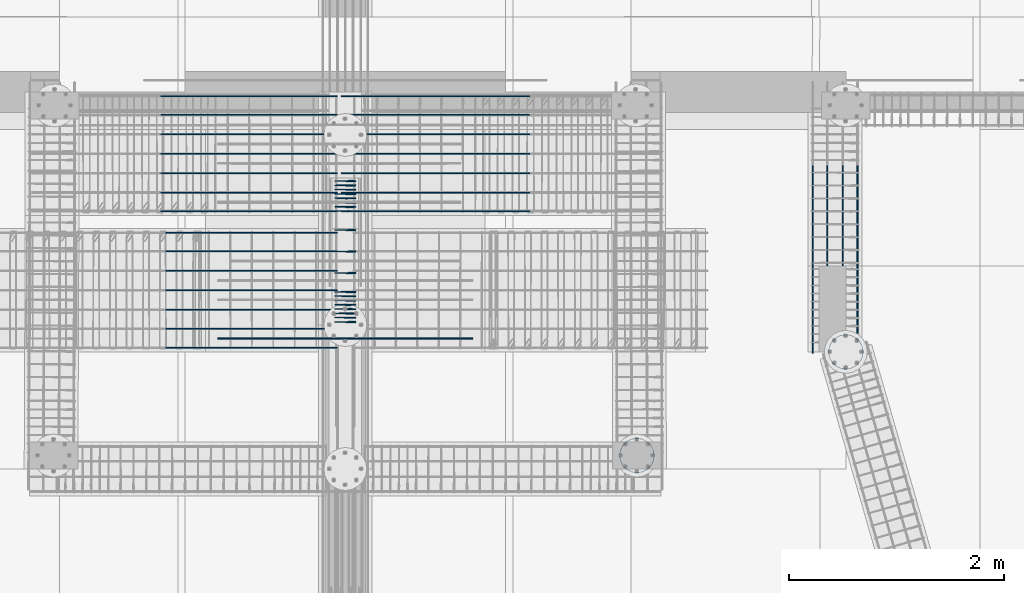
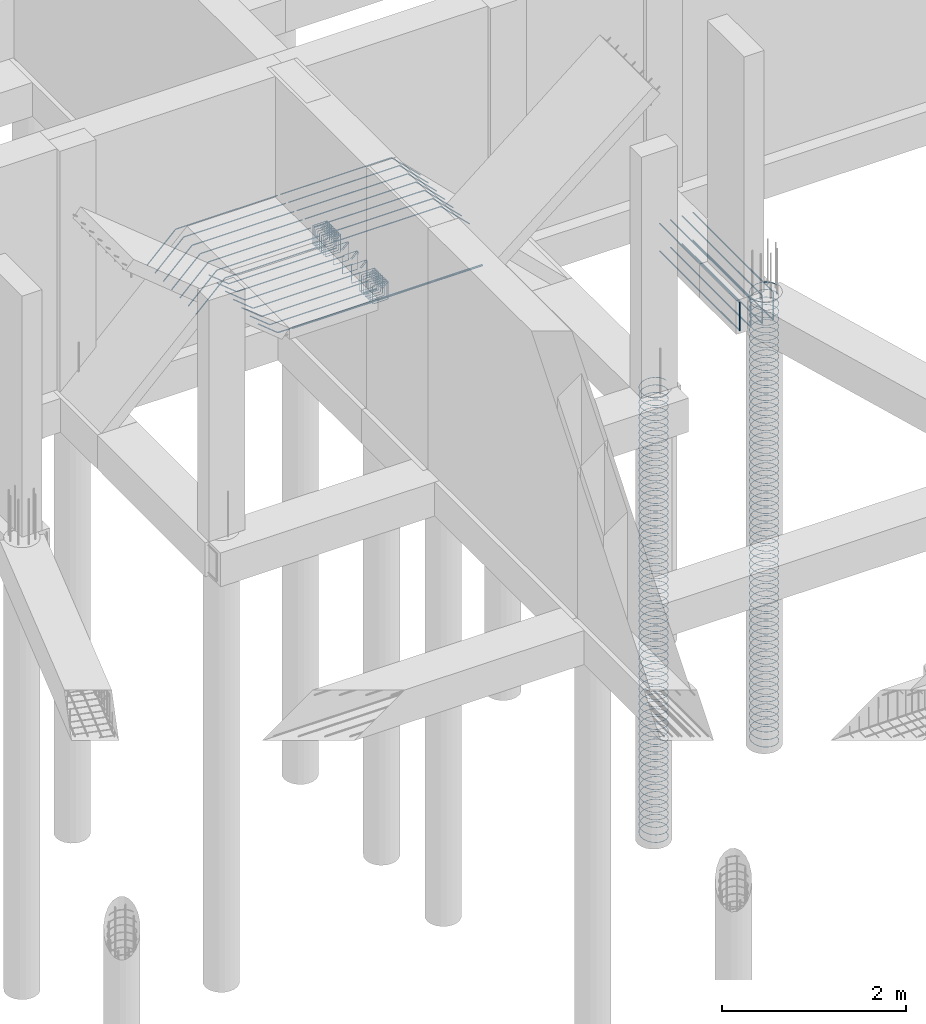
# One storey, part 8 of 13: 8 reinforcing bars.
"""IFC4 building model written with IfcOpenShell, lengths in metres."""

from ifc_helpers import new_model, entity, si_unit, origin_with_axes, place, context, project, spatial, source, transform, mapped, element, save


model = new_model("IFC4")

# Units and contexts
model_context = context("Model", 3, precision=1e-05, world=origin_with_axes())
ifc_project = project(units=[si_unit("LENGTHUNIT", "METRE"), si_unit("AREAUNIT", "SQUARE_METRE"), si_unit("VOLUMEUNIT", "CUBIC_METRE"), si_unit("MASSUNIT", "GRAM", prefix="KILO"), si_unit("TIMEUNIT", "SECOND"), si_unit("PLANEANGLEUNIT", "RADIAN"), si_unit("SOLIDANGLEUNIT", "STERADIAN"), si_unit("THERMODYNAMICTEMPERATUREUNIT", "DEGREE_CELSIUS")], contexts=[model_context])

# Site, building, storey
placement_1 = place(None, origin_with_axes())
site = spatial("IfcSite", under=ifc_project, at=placement_1, Name="Italia", CompositionType="ELEMENT")
building = spatial("IfcBuilding", under=site, at=placement_1, Name="Villa", CompositionType="ELEMENT")
storey = spatial("IfcBuildingStorey", under=building, at=placement_1, Name="Storey 0", CompositionType="ELEMENT", Elevation=0.0)

# Reinforcing bars
shared_shape_1 = source(origin_with_axes(), model_context, "Body", "AdvancedSweptSolid", [
    entity("IfcSweptDiskSolid", entity("IfcIndexedPolyCurve", entity("IfcCartesianPointList3D", [[11.965, 8.915, -5.97], [11.9572, 8.86556, -5.965], [11.9344, 8.82095, -5.96], [11.899, 8.78556, -5.955], [11.8544, 8.76283, -5.95], [11.805, 8.755, -5.945], [11.7556, 8.76283, -5.94], [11.711, 8.78556, -5.935], [11.6756, 8.82095, -5.93], [11.6528, 8.86556, -5.925], [11.645, 8.915, -5.92], [11.6528, 8.96444, -5.915], [11.6756, 9.00905, -5.91], [11.711, 9.04444, -5.905], [11.7556, 9.06717, -5.9], [11.805, 9.075, -5.895], [11.8544, 9.06717, -5.89], [11.899, 9.04444, -5.885], [11.9344, 9.00905, -5.88], [11.9572, 8.96444, -5.875], [11.965, 8.915, -5.87]]), [entity("IfcLineIndex", [1, 2]), entity("IfcLineIndex", [2, 3]), entity("IfcLineIndex", [3, 4]), entity("IfcLineIndex", [4, 5]), entity("IfcLineIndex", [5, 6]), entity("IfcLineIndex", [6, 7]), entity("IfcLineIndex", [7, 8]), entity("IfcLineIndex", [8, 9]), entity("IfcLineIndex", [9, 10]), entity("IfcLineIndex", [10, 11]), entity("IfcLineIndex", [11, 12]), entity("IfcLineIndex", [12, 13]), entity("IfcLineIndex", [13, 14]), entity("IfcLineIndex", [14, 15]), entity("IfcLineIndex", [15, 16]), entity("IfcLineIndex", [16, 17]), entity("IfcLineIndex", [17, 18]), entity("IfcLineIndex", [18, 19]), entity("IfcLineIndex", [19, 20]), entity("IfcLineIndex", [20, 21])], False), 0.004),
])
placement_2 = place(placement_1, origin_with_axes())
reinforcing_bar_1_placement = place(placement_2, origin_with_axes())
element("IfcReinforcingBar", 1, at=reinforcing_bar_1_placement, inside=storey, BarLength=1.00616, CrossSectionArea=5.0265e-05, NominalDiameter=0.008, context=model_context, shape_type="MappedRepresentation", body=[
    mapped(shared_shape_1, transform((2.00272e-05, -1.33514e-05, 4.30002), x_axis=(1.0, 0.0, 0.0), y_axis=(0.0, 1.0, 0.0), z_axis=(0.0, 0.0, 1.0), scale=1.0)),
    mapped(shared_shape_1, transform((2.00272e-05, -1.33514e-05, 4.20002), x_axis=(1.0, 0.0, 0.0), y_axis=(0.0, 1.0, 0.0), z_axis=(0.0, 0.0, 1.0), scale=1.0)),
    mapped(shared_shape_1, transform((2.00272e-05, -1.33514e-05, 4.10002), x_axis=(1.0, 0.0, 0.0), y_axis=(0.0, 1.0, 0.0), z_axis=(0.0, 0.0, 1.0), scale=1.0)),
    mapped(shared_shape_1, transform((0.0, 0.0, 3.9), x_axis=(1.0, 0.0, 0.0), y_axis=(0.0, 1.0, 0.0), z_axis=(0.0, 0.0, 1.0), scale=1.0)),
    mapped(shared_shape_1, transform((0.0, 0.0, 3.8), x_axis=(1.0, 0.0, 0.0), y_axis=(0.0, 1.0, 0.0), z_axis=(0.0, 0.0, 1.0), scale=1.0)),
    mapped(shared_shape_1, transform((2.00272e-05, -1.33514e-05, 4.40002), x_axis=(1.0, 0.0, 0.0), y_axis=(0.0, 1.0, 0.0), z_axis=(0.0, 0.0, 1.0), scale=1.0)),
    mapped(shared_shape_1, transform((0.0, 0.0, 3.5), x_axis=(1.0, 0.0, 0.0), y_axis=(0.0, 1.0, 0.0), z_axis=(0.0, 0.0, 1.0), scale=1.0)),
    mapped(shared_shape_1, transform((0.0, 0.0, 3.4), x_axis=(1.0, 0.0, 0.0), y_axis=(0.0, 1.0, 0.0), z_axis=(0.0, 0.0, 1.0), scale=1.0)),
    mapped(shared_shape_1, transform((2.00272e-05, -1.33514e-05, 4.00002), x_axis=(1.0, 0.0, 0.0), y_axis=(0.0, 1.0, 0.0), z_axis=(0.0, 0.0, 1.0), scale=1.0)),
    mapped(shared_shape_1, transform((0.0, 0.0, 3.1), x_axis=(1.0, 0.0, 0.0), y_axis=(0.0, 1.0, 0.0), z_axis=(0.0, 0.0, 1.0), scale=1.0)),
    mapped(shared_shape_1, transform((0.0, 0.0, 3.7), x_axis=(1.0, 0.0, 0.0), y_axis=(0.0, 1.0, 0.0), z_axis=(0.0, 0.0, 1.0), scale=1.0)),
    mapped(shared_shape_1, transform((0.0, 0.0, 3.6), x_axis=(1.0, 0.0, 0.0), y_axis=(0.0, 1.0, 0.0), z_axis=(0.0, 0.0, 1.0), scale=1.0)),
    mapped(shared_shape_1, transform((2.09808e-05, -1.33514e-05, 5.70002), x_axis=(1.0, 0.0, 0.0), y_axis=(0.0, 1.0, 0.0), z_axis=(0.0, 0.0, 1.0), scale=1.0)),
    mapped(shared_shape_1, transform((0.0, 0.0, 3.3), x_axis=(1.0, 0.0, 0.0), y_axis=(0.0, 1.0, 0.0), z_axis=(0.0, 0.0, 1.0), scale=1.0)),
    mapped(shared_shape_1, transform((0.0, 0.0, 3.2), x_axis=(1.0, 0.0, 0.0), y_axis=(0.0, 1.0, 0.0), z_axis=(0.0, 0.0, 1.0), scale=1.0)),
    mapped(shared_shape_1, transform((0.0, 0.0, 3.0), x_axis=(1.0, 0.0, 0.0), y_axis=(0.0, 1.0, 0.0), z_axis=(0.0, 0.0, 1.0), scale=1.0)),
    mapped(shared_shape_1, transform((2.00272e-05, -1.23978e-05, 5.90002), x_axis=(1.0, 0.0, 0.0), y_axis=(0.0, 1.0, 0.0), z_axis=(0.0, 0.0, 1.0), scale=1.0)),
    mapped(shared_shape_1, transform((2.09808e-05, -1.33514e-05, 5.80002), x_axis=(1.0, 0.0, 0.0), y_axis=(0.0, 1.0, 0.0), z_axis=(0.0, 0.0, 1.0), scale=1.0)),
    mapped(shared_shape_1, transform((2.09808e-05, -1.33514e-05, 5.60002), x_axis=(1.0, 0.0, 0.0), y_axis=(0.0, 1.0, 0.0), z_axis=(0.0, 0.0, 1.0), scale=1.0)),
    mapped(shared_shape_1, transform((2.09808e-05, -1.33514e-05, 5.50002), x_axis=(1.0, 0.0, 0.0), y_axis=(0.0, 1.0, 0.0), z_axis=(0.0, 0.0, 1.0), scale=1.0)),
    mapped(shared_shape_1, transform((2.00272e-05, -1.33514e-05, 5.40002), x_axis=(1.0, 0.0, 0.0), y_axis=(0.0, 1.0, 0.0), z_axis=(0.0, 0.0, 1.0), scale=1.0)),
    mapped(shared_shape_1, transform((2.00272e-05, -1.33514e-05, 5.20002), x_axis=(1.0, 0.0, 0.0), y_axis=(0.0, 1.0, 0.0), z_axis=(0.0, 0.0, 1.0), scale=1.0)),
    mapped(shared_shape_1, transform((2.00272e-05, -1.33514e-05, 5.10002), x_axis=(1.0, 0.0, 0.0), y_axis=(0.0, 1.0, 0.0), z_axis=(0.0, 0.0, 1.0), scale=1.0)),
    mapped(shared_shape_1, transform((2.00272e-05, -1.33514e-05, 5.00002), x_axis=(1.0, 0.0, 0.0), y_axis=(0.0, 1.0, 0.0), z_axis=(0.0, 0.0, 1.0), scale=1.0)),
    mapped(shared_shape_1, transform((2.00272e-05, -1.33514e-05, 4.80002), x_axis=(1.0, 0.0, 0.0), y_axis=(0.0, 1.0, 0.0), z_axis=(0.0, 0.0, 1.0), scale=1.0)),
    mapped(shared_shape_1, transform((2.00272e-05, -1.33514e-05, 4.70002), x_axis=(1.0, 0.0, 0.0), y_axis=(0.0, 1.0, 0.0), z_axis=(0.0, 0.0, 1.0), scale=1.0)),
    mapped(shared_shape_1, transform((2.00272e-05, -1.33514e-05, 5.30002), x_axis=(1.0, 0.0, 0.0), y_axis=(0.0, 1.0, 0.0), z_axis=(0.0, 0.0, 1.0), scale=1.0)),
    mapped(shared_shape_1, transform((0.0, 0.0, 1.4), x_axis=(1.0, 0.0, 0.0), y_axis=(0.0, 1.0, 0.0), z_axis=(0.0, 0.0, 1.0), scale=1.0)),
    mapped(shared_shape_1, transform((0.0, 0.0, 1.3), x_axis=(1.0, 0.0, 0.0), y_axis=(0.0, 1.0, 0.0), z_axis=(0.0, 0.0, 1.0), scale=1.0)),
    mapped(shared_shape_1, transform((2.00272e-05, -1.33514e-05, 4.90002), x_axis=(1.0, 0.0, 0.0), y_axis=(0.0, 1.0, 0.0), z_axis=(0.0, 0.0, 1.0), scale=1.0)),
    mapped(shared_shape_1, transform((0.0, 0.0, 1.0), x_axis=(1.0, 0.0, 0.0), y_axis=(0.0, 1.0, 0.0), z_axis=(0.0, 0.0, 1.0), scale=1.0)),
    mapped(shared_shape_1, transform((2.00272e-05, -1.33514e-05, 4.60002), x_axis=(1.0, 0.0, 0.0), y_axis=(0.0, 1.0, 0.0), z_axis=(0.0, 0.0, 1.0), scale=1.0)),
    mapped(shared_shape_1, transform((2.00272e-05, -1.33514e-05, 4.50002), x_axis=(1.0, 0.0, 0.0), y_axis=(0.0, 1.0, 0.0), z_axis=(0.0, 0.0, 1.0), scale=1.0)),
    mapped(shared_shape_1, transform((0.0, 0.0, 0.6), x_axis=(1.0, 0.0, 0.0), y_axis=(0.0, 1.0, 0.0), z_axis=(0.0, 0.0, 1.0), scale=1.0)),
    mapped(shared_shape_1, transform((0.0, 0.0, 1.2), x_axis=(1.0, 0.0, 0.0), y_axis=(0.0, 1.0, 0.0), z_axis=(0.0, 0.0, 1.0), scale=1.0)),
    mapped(shared_shape_1, transform((0.0, 0.0, 1.1), x_axis=(1.0, 0.0, 0.0), y_axis=(0.0, 1.0, 0.0), z_axis=(0.0, 0.0, 1.0), scale=1.0)),
    mapped(shared_shape_1, transform((0.0, 0.0, 0.9), x_axis=(1.0, 0.0, 0.0), y_axis=(0.0, 1.0, 0.0), z_axis=(0.0, 0.0, 1.0), scale=1.0)),
    mapped(shared_shape_1, transform((0.0, 0.0, 0.8), x_axis=(1.0, 0.0, 0.0), y_axis=(0.0, 1.0, 0.0), z_axis=(0.0, 0.0, 1.0), scale=1.0)),
    mapped(shared_shape_1, transform((0.0, 0.0, 0.7), x_axis=(1.0, 0.0, 0.0), y_axis=(0.0, 1.0, 0.0), z_axis=(0.0, 0.0, 1.0), scale=1.0)),
    mapped(shared_shape_1, transform((0.0, 0.0, 0.5), x_axis=(1.0, 0.0, 0.0), y_axis=(0.0, 1.0, 0.0), z_axis=(0.0, 0.0, 1.0), scale=1.0)),
    mapped(shared_shape_1, transform((0.0, 0.0, 0.4), x_axis=(1.0, 0.0, 0.0), y_axis=(0.0, 1.0, 0.0), z_axis=(0.0, 0.0, 1.0), scale=1.0)),
    mapped(shared_shape_1, transform((0.0, 0.0, 0.3), x_axis=(1.0, 0.0, 0.0), y_axis=(0.0, 1.0, 0.0), z_axis=(0.0, 0.0, 1.0), scale=1.0)),
    mapped(shared_shape_1, transform((0.0, 0.0, 0.1), x_axis=(1.0, 0.0, 0.0), y_axis=(0.0, 1.0, 0.0), z_axis=(0.0, 0.0, 1.0), scale=1.0)),
    mapped(shared_shape_1, transform((0.0, 0.0, 0.0), x_axis=(1.0, 0.0, 0.0), y_axis=(0.0, 1.0, 0.0), z_axis=(0.0, 0.0, 1.0), scale=1.0)),
    mapped(shared_shape_1, transform((0.0, 0.0, 2.9), x_axis=(1.0, 0.0, 0.0), y_axis=(0.0, 1.0, 0.0), z_axis=(0.0, 0.0, 1.0), scale=1.0)),
    mapped(shared_shape_1, transform((0.0, 0.0, 2.7), x_axis=(1.0, 0.0, 0.0), y_axis=(0.0, 1.0, 0.0), z_axis=(0.0, 0.0, 1.0), scale=1.0)),
    mapped(shared_shape_1, transform((0.0, 0.0, 2.6), x_axis=(1.0, 0.0, 0.0), y_axis=(0.0, 1.0, 0.0), z_axis=(0.0, 0.0, 1.0), scale=1.0)),
    mapped(shared_shape_1, transform((0.0, 0.0, 0.2), x_axis=(1.0, 0.0, 0.0), y_axis=(0.0, 1.0, 0.0), z_axis=(0.0, 0.0, 1.0), scale=1.0)),
    mapped(shared_shape_1, transform((0.0, 0.0, 2.3), x_axis=(1.0, 0.0, 0.0), y_axis=(0.0, 1.0, 0.0), z_axis=(0.0, 0.0, 1.0), scale=1.0)),
    mapped(shared_shape_1, transform((0.0, 0.0, 2.2), x_axis=(1.0, 0.0, 0.0), y_axis=(0.0, 1.0, 0.0), z_axis=(0.0, 0.0, 1.0), scale=1.0)),
    mapped(shared_shape_1, transform((0.0, 0.0, 2.8), x_axis=(1.0, 0.0, 0.0), y_axis=(0.0, 1.0, 0.0), z_axis=(0.0, 0.0, 1.0), scale=1.0)),
    mapped(shared_shape_1, transform((0.0, 0.0, 1.9), x_axis=(1.0, 0.0, 0.0), y_axis=(0.0, 1.0, 0.0), z_axis=(0.0, 0.0, 1.0), scale=1.0)),
    mapped(shared_shape_1, transform((0.0, 0.0, 2.5), x_axis=(1.0, 0.0, 0.0), y_axis=(0.0, 1.0, 0.0), z_axis=(0.0, 0.0, 1.0), scale=1.0)),
    mapped(shared_shape_1, transform((0.0, 0.0, 2.4), x_axis=(1.0, 0.0, 0.0), y_axis=(0.0, 1.0, 0.0), z_axis=(0.0, 0.0, 1.0), scale=1.0)),
    mapped(shared_shape_1, transform((0.0, 0.0, 1.5), x_axis=(1.0, 0.0, 0.0), y_axis=(0.0, 1.0, 0.0), z_axis=(0.0, 0.0, 1.0), scale=1.0)),
    mapped(shared_shape_1, transform((0.0, 0.0, 2.1), x_axis=(1.0, 0.0, 0.0), y_axis=(0.0, 1.0, 0.0), z_axis=(0.0, 0.0, 1.0), scale=1.0)),
    mapped(shared_shape_1, transform((0.0, 0.0, 2.0), x_axis=(1.0, 0.0, 0.0), y_axis=(0.0, 1.0, 0.0), z_axis=(0.0, 0.0, 1.0), scale=1.0)),
    mapped(shared_shape_1, transform((0.0, 0.0, 1.8), x_axis=(1.0, 0.0, 0.0), y_axis=(0.0, 1.0, 0.0), z_axis=(0.0, 0.0, 1.0), scale=1.0)),
    mapped(shared_shape_1, transform((0.0, 0.0, 1.7), x_axis=(1.0, 0.0, 0.0), y_axis=(0.0, 1.0, 0.0), z_axis=(0.0, 0.0, 1.0), scale=1.0)),
    mapped(shared_shape_1, transform((0.0, 0.0, 1.6), x_axis=(1.0, 0.0, 0.0), y_axis=(0.0, 1.0, 0.0), z_axis=(0.0, 0.0, 1.0), scale=1.0)),
])
shared_shape_2 = source(origin_with_axes(), model_context, "Body", "AdvancedSweptSolid", [
    entity("IfcSweptDiskSolid", entity("IfcIndexedPolyCurve", entity("IfcCartesianPointList3D", [[13.91, 9.88, -5.97], [13.9022, 9.83056, -5.965], [13.8794, 9.78595, -5.96], [13.844, 9.75056, -5.955], [13.7994, 9.72783, -5.95], [13.75, 9.72, -5.945], [13.7006, 9.72783, -5.94], [13.656, 9.75056, -5.935], [13.6206, 9.78595, -5.93], [13.5978, 9.83056, -5.925], [13.59, 9.88, -5.92], [13.5978, 9.92944, -5.915], [13.6206, 9.97405, -5.91], [13.656, 10.0094, -5.905], [13.7006, 10.0322, -5.9], [13.75, 10.04, -5.895], [13.7994, 10.0322, -5.89], [13.844, 10.0094, -5.885], [13.8794, 9.97405, -5.88], [13.9022, 9.92944, -5.875], [13.91, 9.88, -5.87]]), [entity("IfcLineIndex", [1, 2]), entity("IfcLineIndex", [2, 3]), entity("IfcLineIndex", [3, 4]), entity("IfcLineIndex", [4, 5]), entity("IfcLineIndex", [5, 6]), entity("IfcLineIndex", [6, 7]), entity("IfcLineIndex", [7, 8]), entity("IfcLineIndex", [8, 9]), entity("IfcLineIndex", [9, 10]), entity("IfcLineIndex", [10, 11]), entity("IfcLineIndex", [11, 12]), entity("IfcLineIndex", [12, 13]), entity("IfcLineIndex", [13, 14]), entity("IfcLineIndex", [14, 15]), entity("IfcLineIndex", [15, 16]), entity("IfcLineIndex", [16, 17]), entity("IfcLineIndex", [17, 18]), entity("IfcLineIndex", [18, 19]), entity("IfcLineIndex", [19, 20]), entity("IfcLineIndex", [20, 21])], False), 0.004),
])
reinforcing_bar_2_placement = place(placement_2, origin_with_axes())
element("IfcReinforcingBar", 2, at=reinforcing_bar_2_placement, inside=storey, BarLength=1.00616, CrossSectionArea=5.0265e-05, NominalDiameter=0.008, context=model_context, shape_type="MappedRepresentation", body=[
    mapped(shared_shape_2, transform((2.00272e-05, -1.23978e-05, 4.30002), x_axis=(1.0, 0.0, 0.0), y_axis=(0.0, 1.0, 0.0), z_axis=(0.0, 0.0, 1.0), scale=1.0)),
    mapped(shared_shape_2, transform((2.00272e-05, -1.23978e-05, 4.20002), x_axis=(1.0, 0.0, 0.0), y_axis=(0.0, 1.0, 0.0), z_axis=(0.0, 0.0, 1.0), scale=1.0)),
    mapped(shared_shape_2, transform((2.00272e-05, -1.23978e-05, 4.10002), x_axis=(1.0, 0.0, 0.0), y_axis=(0.0, 1.0, 0.0), z_axis=(0.0, 0.0, 1.0), scale=1.0)),
    mapped(shared_shape_2, transform((0.0, 0.0, 3.9), x_axis=(1.0, 0.0, 0.0), y_axis=(0.0, 1.0, 0.0), z_axis=(0.0, 0.0, 1.0), scale=1.0)),
    mapped(shared_shape_2, transform((0.0, 0.0, 3.8), x_axis=(1.0, 0.0, 0.0), y_axis=(0.0, 1.0, 0.0), z_axis=(0.0, 0.0, 1.0), scale=1.0)),
    mapped(shared_shape_2, transform((2.00272e-05, -1.23978e-05, 4.40002), x_axis=(1.0, 0.0, 0.0), y_axis=(0.0, 1.0, 0.0), z_axis=(0.0, 0.0, 1.0), scale=1.0)),
    mapped(shared_shape_2, transform((0.0, 0.0, 3.5), x_axis=(1.0, 0.0, 0.0), y_axis=(0.0, 1.0, 0.0), z_axis=(0.0, 0.0, 1.0), scale=1.0)),
    mapped(shared_shape_2, transform((0.0, 0.0, 3.4), x_axis=(1.0, 0.0, 0.0), y_axis=(0.0, 1.0, 0.0), z_axis=(0.0, 0.0, 1.0), scale=1.0)),
    mapped(shared_shape_2, transform((2.00272e-05, -1.23978e-05, 4.00002), x_axis=(1.0, 0.0, 0.0), y_axis=(0.0, 1.0, 0.0), z_axis=(0.0, 0.0, 1.0), scale=1.0)),
    mapped(shared_shape_2, transform((0.0, 0.0, 3.1), x_axis=(1.0, 0.0, 0.0), y_axis=(0.0, 1.0, 0.0), z_axis=(0.0, 0.0, 1.0), scale=1.0)),
    mapped(shared_shape_2, transform((0.0, 0.0, 3.7), x_axis=(1.0, 0.0, 0.0), y_axis=(0.0, 1.0, 0.0), z_axis=(0.0, 0.0, 1.0), scale=1.0)),
    mapped(shared_shape_2, transform((0.0, 0.0, 3.6), x_axis=(1.0, 0.0, 0.0), y_axis=(0.0, 1.0, 0.0), z_axis=(0.0, 0.0, 1.0), scale=1.0)),
    mapped(shared_shape_2, transform((2.09808e-05, -1.23978e-05, 5.70003), x_axis=(1.0, 0.0, 0.0), y_axis=(0.0, 1.0, 0.0), z_axis=(0.0, 0.0, 1.0), scale=1.0)),
    mapped(shared_shape_2, transform((0.0, 0.0, 3.3), x_axis=(1.0, 0.0, 0.0), y_axis=(0.0, 1.0, 0.0), z_axis=(0.0, 0.0, 1.0), scale=1.0)),
    mapped(shared_shape_2, transform((0.0, 0.0, 3.2), x_axis=(1.0, 0.0, 0.0), y_axis=(0.0, 1.0, 0.0), z_axis=(0.0, 0.0, 1.0), scale=1.0)),
    mapped(shared_shape_2, transform((0.0, 0.0, 3.0), x_axis=(1.0, 0.0, 0.0), y_axis=(0.0, 1.0, 0.0), z_axis=(0.0, 0.0, 1.0), scale=1.0)),
    mapped(shared_shape_2, transform((2.00272e-05, -1.14441e-05, 5.90003), x_axis=(1.0, 0.0, 0.0), y_axis=(0.0, 1.0, 0.0), z_axis=(0.0, 0.0, 1.0), scale=1.0)),
    mapped(shared_shape_2, transform((2.09808e-05, -1.23978e-05, 5.80003), x_axis=(1.0, 0.0, 0.0), y_axis=(0.0, 1.0, 0.0), z_axis=(0.0, 0.0, 1.0), scale=1.0)),
    mapped(shared_shape_2, transform((2.09808e-05, -1.23978e-05, 5.60003), x_axis=(1.0, 0.0, 0.0), y_axis=(0.0, 1.0, 0.0), z_axis=(0.0, 0.0, 1.0), scale=1.0)),
    mapped(shared_shape_2, transform((2.09808e-05, -1.23978e-05, 5.50003), x_axis=(1.0, 0.0, 0.0), y_axis=(0.0, 1.0, 0.0), z_axis=(0.0, 0.0, 1.0), scale=1.0)),
    mapped(shared_shape_2, transform((2.00272e-05, -1.23978e-05, 5.40002), x_axis=(1.0, 0.0, 0.0), y_axis=(0.0, 1.0, 0.0), z_axis=(0.0, 0.0, 1.0), scale=1.0)),
    mapped(shared_shape_2, transform((2.00272e-05, -1.23978e-05, 5.20002), x_axis=(1.0, 0.0, 0.0), y_axis=(0.0, 1.0, 0.0), z_axis=(0.0, 0.0, 1.0), scale=1.0)),
    mapped(shared_shape_2, transform((2.00272e-05, -1.23978e-05, 5.10002), x_axis=(1.0, 0.0, 0.0), y_axis=(0.0, 1.0, 0.0), z_axis=(0.0, 0.0, 1.0), scale=1.0)),
    mapped(shared_shape_2, transform((2.00272e-05, -1.23978e-05, 5.00002), x_axis=(1.0, 0.0, 0.0), y_axis=(0.0, 1.0, 0.0), z_axis=(0.0, 0.0, 1.0), scale=1.0)),
    mapped(shared_shape_2, transform((2.00272e-05, -1.23978e-05, 4.80002), x_axis=(1.0, 0.0, 0.0), y_axis=(0.0, 1.0, 0.0), z_axis=(0.0, 0.0, 1.0), scale=1.0)),
    mapped(shared_shape_2, transform((2.00272e-05, -1.23978e-05, 4.70002), x_axis=(1.0, 0.0, 0.0), y_axis=(0.0, 1.0, 0.0), z_axis=(0.0, 0.0, 1.0), scale=1.0)),
    mapped(shared_shape_2, transform((2.00272e-05, -1.23978e-05, 5.30002), x_axis=(1.0, 0.0, 0.0), y_axis=(0.0, 1.0, 0.0), z_axis=(0.0, 0.0, 1.0), scale=1.0)),
    mapped(shared_shape_2, transform((0.0, 0.0, 1.4), x_axis=(1.0, 0.0, 0.0), y_axis=(0.0, 1.0, 0.0), z_axis=(0.0, 0.0, 1.0), scale=1.0)),
    mapped(shared_shape_2, transform((0.0, 0.0, 1.3), x_axis=(1.0, 0.0, 0.0), y_axis=(0.0, 1.0, 0.0), z_axis=(0.0, 0.0, 1.0), scale=1.0)),
    mapped(shared_shape_2, transform((2.00272e-05, -1.23978e-05, 4.90002), x_axis=(1.0, 0.0, 0.0), y_axis=(0.0, 1.0, 0.0), z_axis=(0.0, 0.0, 1.0), scale=1.0)),
    mapped(shared_shape_2, transform((0.0, 0.0, 0.999999), x_axis=(1.0, 0.0, 0.0), y_axis=(0.0, 1.0, 0.0), z_axis=(0.0, 0.0, 1.0), scale=1.0)),
    mapped(shared_shape_2, transform((2.00272e-05, -1.23978e-05, 4.60002), x_axis=(1.0, 0.0, 0.0), y_axis=(0.0, 1.0, 0.0), z_axis=(0.0, 0.0, 1.0), scale=1.0)),
    mapped(shared_shape_2, transform((2.00272e-05, -1.23978e-05, 4.50002), x_axis=(1.0, 0.0, 0.0), y_axis=(0.0, 1.0, 0.0), z_axis=(0.0, 0.0, 1.0), scale=1.0)),
    mapped(shared_shape_2, transform((0.0, 0.0, 0.599999), x_axis=(1.0, 0.0, 0.0), y_axis=(0.0, 1.0, 0.0), z_axis=(0.0, 0.0, 1.0), scale=1.0)),
    mapped(shared_shape_2, transform((0.0, 0.0, 1.2), x_axis=(1.0, 0.0, 0.0), y_axis=(0.0, 1.0, 0.0), z_axis=(0.0, 0.0, 1.0), scale=1.0)),
    mapped(shared_shape_2, transform((0.0, 0.0, 1.1), x_axis=(1.0, 0.0, 0.0), y_axis=(0.0, 1.0, 0.0), z_axis=(0.0, 0.0, 1.0), scale=1.0)),
    mapped(shared_shape_2, transform((0.0, 0.0, 0.899999), x_axis=(1.0, 0.0, 0.0), y_axis=(0.0, 1.0, 0.0), z_axis=(0.0, 0.0, 1.0), scale=1.0)),
    mapped(shared_shape_2, transform((0.0, 0.0, 0.799999), x_axis=(1.0, 0.0, 0.0), y_axis=(0.0, 1.0, 0.0), z_axis=(0.0, 0.0, 1.0), scale=1.0)),
    mapped(shared_shape_2, transform((0.0, 0.0, 0.699999), x_axis=(1.0, 0.0, 0.0), y_axis=(0.0, 1.0, 0.0), z_axis=(0.0, 0.0, 1.0), scale=1.0)),
    mapped(shared_shape_2, transform((0.0, 0.0, 0.499999), x_axis=(1.0, 0.0, 0.0), y_axis=(0.0, 1.0, 0.0), z_axis=(0.0, 0.0, 1.0), scale=1.0)),
    mapped(shared_shape_2, transform((0.0, 0.0, 0.399999), x_axis=(1.0, 0.0, 0.0), y_axis=(0.0, 1.0, 0.0), z_axis=(0.0, 0.0, 1.0), scale=1.0)),
    mapped(shared_shape_2, transform((0.0, 0.0, 0.299999), x_axis=(1.0, 0.0, 0.0), y_axis=(0.0, 1.0, 0.0), z_axis=(0.0, 0.0, 1.0), scale=1.0)),
    mapped(shared_shape_2, transform((0.0, 0.0, 0.0999994), x_axis=(1.0, 0.0, 0.0), y_axis=(0.0, 1.0, 0.0), z_axis=(0.0, 0.0, 1.0), scale=1.0)),
    mapped(shared_shape_2, transform((0.0, 0.0, 0.0), x_axis=(1.0, 0.0, 0.0), y_axis=(0.0, 1.0, 0.0), z_axis=(0.0, 0.0, 1.0), scale=1.0)),
    mapped(shared_shape_2, transform((0.0, 0.0, 2.9), x_axis=(1.0, 0.0, 0.0), y_axis=(0.0, 1.0, 0.0), z_axis=(0.0, 0.0, 1.0), scale=1.0)),
    mapped(shared_shape_2, transform((0.0, 0.0, 2.7), x_axis=(1.0, 0.0, 0.0), y_axis=(0.0, 1.0, 0.0), z_axis=(0.0, 0.0, 1.0), scale=1.0)),
    mapped(shared_shape_2, transform((0.0, 0.0, 2.6), x_axis=(1.0, 0.0, 0.0), y_axis=(0.0, 1.0, 0.0), z_axis=(0.0, 0.0, 1.0), scale=1.0)),
    mapped(shared_shape_2, transform((0.0, 0.0, 0.199999), x_axis=(1.0, 0.0, 0.0), y_axis=(0.0, 1.0, 0.0), z_axis=(0.0, 0.0, 1.0), scale=1.0)),
    mapped(shared_shape_2, transform((0.0, 0.0, 2.3), x_axis=(1.0, 0.0, 0.0), y_axis=(0.0, 1.0, 0.0), z_axis=(0.0, 0.0, 1.0), scale=1.0)),
    mapped(shared_shape_2, transform((0.0, 0.0, 2.2), x_axis=(1.0, 0.0, 0.0), y_axis=(0.0, 1.0, 0.0), z_axis=(0.0, 0.0, 1.0), scale=1.0)),
    mapped(shared_shape_2, transform((0.0, 0.0, 2.8), x_axis=(1.0, 0.0, 0.0), y_axis=(0.0, 1.0, 0.0), z_axis=(0.0, 0.0, 1.0), scale=1.0)),
    mapped(shared_shape_2, transform((0.0, 0.0, 1.9), x_axis=(1.0, 0.0, 0.0), y_axis=(0.0, 1.0, 0.0), z_axis=(0.0, 0.0, 1.0), scale=1.0)),
    mapped(shared_shape_2, transform((0.0, 0.0, 2.5), x_axis=(1.0, 0.0, 0.0), y_axis=(0.0, 1.0, 0.0), z_axis=(0.0, 0.0, 1.0), scale=1.0)),
    mapped(shared_shape_2, transform((0.0, 0.0, 2.4), x_axis=(1.0, 0.0, 0.0), y_axis=(0.0, 1.0, 0.0), z_axis=(0.0, 0.0, 1.0), scale=1.0)),
    mapped(shared_shape_2, transform((0.0, 0.0, 1.5), x_axis=(1.0, 0.0, 0.0), y_axis=(0.0, 1.0, 0.0), z_axis=(0.0, 0.0, 1.0), scale=1.0)),
    mapped(shared_shape_2, transform((0.0, 0.0, 2.1), x_axis=(1.0, 0.0, 0.0), y_axis=(0.0, 1.0, 0.0), z_axis=(0.0, 0.0, 1.0), scale=1.0)),
    mapped(shared_shape_2, transform((0.0, 0.0, 2.0), x_axis=(1.0, 0.0, 0.0), y_axis=(0.0, 1.0, 0.0), z_axis=(0.0, 0.0, 1.0), scale=1.0)),
    mapped(shared_shape_2, transform((0.0, 0.0, 1.8), x_axis=(1.0, 0.0, 0.0), y_axis=(0.0, 1.0, 0.0), z_axis=(0.0, 0.0, 1.0), scale=1.0)),
    mapped(shared_shape_2, transform((0.0, 0.0, 1.7), x_axis=(1.0, 0.0, 0.0), y_axis=(0.0, 1.0, 0.0), z_axis=(0.0, 0.0, 1.0), scale=1.0)),
    mapped(shared_shape_2, transform((0.0, 0.0, 1.6), x_axis=(1.0, 0.0, 0.0), y_axis=(0.0, 1.0, 0.0), z_axis=(0.0, 0.0, 1.0), scale=1.0)),
])
shared_shape_3 = source(origin_with_axes(), model_context, "Body", "AdvancedSweptSolid", [
    entity("IfcSweptDiskSolid", entity("IfcIndexedPolyCurve", entity("IfcCartesianPointList3D", [[7.41933, 9.92, 1.76059], [7.66229, 9.92, 1.56225], [7.66371, 9.92, 1.56129], [7.66526, 9.92, 1.56058], [7.66691, 9.92, 1.56015], [7.66862, 9.92, 1.56], [7.77575, 9.92, 1.56], [8.55667, 9.92, 1.56], [9.01676, 9.92, 1.56]]), [entity("IfcLineIndex", [1, 2]), entity("IfcLineIndex", [2, 3]), entity("IfcLineIndex", [3, 4]), entity("IfcLineIndex", [4, 5]), entity("IfcLineIndex", [5, 6]), entity("IfcLineIndex", [6, 7]), entity("IfcLineIndex", [7, 8]), entity("IfcLineIndex", [8, 9])], False), 0.007),
])
reinforcing_bar_3_placement = place(placement_2, origin_with_axes())
element("IfcReinforcingBar", 3, at=reinforcing_bar_3_placement, inside=storey, BarLength=1.66861, CrossSectionArea=0.00015394, NominalDiameter=0.014, context=model_context, shape_type="MappedRepresentation", body=[
    mapped(shared_shape_3, transform((0.0, 0.0, 0.0), x_axis=(1.0, 0.0, 0.0), y_axis=(0.0, 1.0, 0.0), z_axis=(0.0, 0.0, 1.0), scale=1.0)),
    mapped(shared_shape_3, transform((0.0, 0.173667, 0.0), x_axis=(1.0, 0.0, 0.0), y_axis=(0.0, 1.0, 0.0), z_axis=(0.0, 0.0, 1.0), scale=1.0)),
    mapped(shared_shape_3, transform((0.0, 1.07, 0.0), x_axis=(1.0, 0.0, 0.0), y_axis=(0.0, 1.0, 0.0), z_axis=(0.0, 0.0, 1.0), scale=1.0)),
    mapped(shared_shape_3, transform((0.0, 0.354333, 0.0), x_axis=(1.0, 0.0, 0.0), y_axis=(0.0, 1.0, 0.0), z_axis=(0.0, 0.0, 1.0), scale=1.0)),
    mapped(shared_shape_3, transform((0.0, 0.715667, 0.0), x_axis=(1.0, 0.0, 0.0), y_axis=(0.0, 1.0, 0.0), z_axis=(0.0, 0.0, 1.0), scale=1.0)),
    mapped(shared_shape_3, transform((0.0, 0.535, 0.0), x_axis=(1.0, 0.0, 0.0), y_axis=(0.0, 1.0, 0.0), z_axis=(0.0, 0.0, 1.0), scale=1.0)),
    mapped(shared_shape_3, transform((0.0, 0.896334, 0.0), x_axis=(1.0, 0.0, 0.0), y_axis=(0.0, 1.0, 0.0), z_axis=(0.0, 0.0, 1.0), scale=1.0)),
])
shared_shape_4 = source(origin_with_axes(), model_context, "Body", "AdvancedSweptSolid", [
    entity("IfcSweptDiskSolid", entity("IfcIndexedPolyCurve", entity("IfcCartesianPointList3D", [[7.8994, 10.0033, 1.49], [8.55667, 10.0033, 1.49], [9.62333, 10.0033, 1.49], [10.2806, 10.0033, 1.49]]), [entity("IfcLineIndex", [1, 2]), entity("IfcLineIndex", [2, 3]), entity("IfcLineIndex", [3, 4])], False), 0.01),
])
reinforcing_bar_4_placement = place(placement_2, origin_with_axes())
element("IfcReinforcingBar", 4, at=reinforcing_bar_4_placement, inside=storey, BarLength=2.38121, CrossSectionArea=0.00031416, NominalDiameter=0.02, context=model_context, shape_type="MappedRepresentation", body=[
    mapped(shared_shape_4, transform((0.0, 0.0, 0.0), x_axis=(1.0, 0.0, 0.0), y_axis=(0.0, 1.0, 0.0), z_axis=(0.0, 0.0, 1.0), scale=1.0)),
])
shared_shape_5 = source(origin_with_axes(), model_context, "Body", "AdvancedSweptSolid", [
    entity("IfcSweptDiskSolid", entity("IfcIndexedPolyCurve", entity("IfcCartesianPointList3D", [[13.859, 9.87081, -0.159], [13.859, 9.87081, -0.399], [13.859, 9.87157, -0.402827], [13.859, 9.87374, -0.406071], [13.859, 9.87698, -0.408239], [13.859, 9.88081, -0.409], [13.859, 11.09, -0.409], [13.859, 11.6158, -0.409]]), [entity("IfcLineIndex", [1, 2]), entity("IfcLineIndex", [2, 3]), entity("IfcLineIndex", [3, 4]), entity("IfcLineIndex", [4, 5]), entity("IfcLineIndex", [5, 6]), entity("IfcLineIndex", [6, 7]), entity("IfcLineIndex", [7, 8])], False), 0.008),
])
reinforcing_bar_5_placement = place(placement_2, origin_with_axes())
element("IfcReinforcingBar", 5, at=reinforcing_bar_5_placement, inside=storey, BarLength=1.99062, CrossSectionArea=0.00020106, NominalDiameter=0.016, context=model_context, shape_type="MappedRepresentation", body=[
    mapped(shared_shape_5, transform((27.3, 0.0, -0.45), x_axis=(-1.0, 0.0, 0.0), y_axis=(0.0, 1.0, 0.0), z_axis=(0.0, 0.0, -1.0), scale=1.0)),
    mapped(shared_shape_5, transform((27.718, 0.0, -0.45), x_axis=(-1.0, 0.0, 0.0), y_axis=(0.0, 1.0, 0.0), z_axis=(0.0, 0.0, -1.0), scale=1.0)),
    mapped(shared_shape_5, transform((27.4367, 0.0, -0.45), x_axis=(-1.0, 0.0, 0.0), y_axis=(0.0, 1.0, 0.0), z_axis=(0.0, 0.0, -1.0), scale=1.0)),
    mapped(shared_shape_5, transform((27.5813, 0.0, -0.45), x_axis=(-1.0, 0.0, 0.0), y_axis=(0.0, 1.0, 0.0), z_axis=(0.0, 0.0, -1.0), scale=1.0)),
    mapped(shared_shape_5, transform((-0.417999, 0.0, 0.0), x_axis=(1.0, 0.0, 0.0), y_axis=(0.0, 1.0, 0.0), z_axis=(0.0, 0.0, 1.0), scale=1.0)),
    mapped(shared_shape_5, transform((0.0, 0.0, 0.0), x_axis=(1.0, 0.0, 0.0), y_axis=(0.0, 1.0, 0.0), z_axis=(0.0, 0.0, 1.0), scale=1.0)),
    mapped(shared_shape_5, transform((-0.281333, 0.0, 0.0), x_axis=(1.0, 0.0, 0.0), y_axis=(0.0, 1.0, 0.0), z_axis=(0.0, 0.0, 1.0), scale=1.0)),
    mapped(shared_shape_5, transform((-0.136666, 0.0, 0.0), x_axis=(1.0, 0.0, 0.0), y_axis=(0.0, 1.0, 0.0), z_axis=(0.0, 0.0, 1.0), scale=1.0)),
])
shared_shape_6 = source(origin_with_axes(), model_context, "Body", "AdvancedSweptSolid", [
    entity("IfcSweptDiskSolid", entity("IfcIndexedPolyCurve", entity("IfcCartesianPointList3D", [[9.05026, 11.19, 1.49], [9.51035, 11.19, 1.49], [10.345, 11.19, 1.49], [10.4409, 11.19, 1.49], [10.4479, 11.19, 1.48714], [10.8051, 11.19, 1.13647]]), [entity("IfcLineIndex", [1, 2]), entity("IfcLineIndex", [2, 3]), entity("IfcLineIndex", [3, 4]), entity("IfcLineIndex", [4, 5]), entity("IfcLineIndex", [5, 6])], False), 0.007),
])
reinforcing_bar_6_placement = place(placement_2, origin_with_axes())
element("IfcReinforcingBar", 6, at=reinforcing_bar_6_placement, inside=storey, BarLength=1.89877, CrossSectionArea=0.00015394, NominalDiameter=0.014, context=model_context, shape_type="MappedRepresentation", body=[
    mapped(shared_shape_6, transform((0.0, 0.0, 0.0), x_axis=(1.0, 0.0, 0.0), y_axis=(0.0, 1.0, 0.0), z_axis=(0.0, 0.0, 1.0), scale=1.0)),
    mapped(shared_shape_6, transform((0.0, 0.173667, 0.0), x_axis=(1.0, 0.0, 0.0), y_axis=(0.0, 1.0, 0.0), z_axis=(0.0, 0.0, 1.0), scale=1.0)),
    mapped(shared_shape_6, transform((0.0, 1.07, 0.0), x_axis=(1.0, 0.0, 0.0), y_axis=(0.0, 1.0, 0.0), z_axis=(0.0, 0.0, 1.0), scale=1.0)),
    mapped(shared_shape_6, transform((0.0, 0.354333, 0.0), x_axis=(1.0, 0.0, 0.0), y_axis=(0.0, 1.0, 0.0), z_axis=(0.0, 0.0, 1.0), scale=1.0)),
    mapped(shared_shape_6, transform((0.0, 0.715667, 0.0), x_axis=(1.0, 0.0, 0.0), y_axis=(0.0, 1.0, 0.0), z_axis=(0.0, 0.0, 1.0), scale=1.0)),
    mapped(shared_shape_6, transform((0.0, 0.535, 0.0), x_axis=(1.0, 0.0, 0.0), y_axis=(0.0, 1.0, 0.0), z_axis=(0.0, 0.0, 1.0), scale=1.0)),
    mapped(shared_shape_6, transform((0.0, 0.896334, 0.0), x_axis=(1.0, 0.0, 0.0), y_axis=(0.0, 1.0, 0.0), z_axis=(0.0, 0.0, 1.0), scale=1.0)),
])
shared_shape_7 = source(origin_with_axes(), model_context, "Body", "AdvancedSweptSolid", [
    entity("IfcSweptDiskSolid", entity("IfcIndexedPolyCurve", entity("IfcCartesianPointList3D", [[7.37488, 11.19, 1.13647], [7.73212, 11.19, 1.48714], [7.73913, 11.19, 1.49], [7.83497, 11.19, 1.49], [8.55667, 11.19, 1.49], [9.01676, 11.19, 1.49]]), [entity("IfcLineIndex", [1, 2]), entity("IfcLineIndex", [2, 3]), entity("IfcLineIndex", [3, 4]), entity("IfcLineIndex", [4, 5]), entity("IfcLineIndex", [5, 6])], False), 0.007),
])
reinforcing_bar_7_placement = place(placement_2, origin_with_axes())
element("IfcReinforcingBar", 7, at=reinforcing_bar_7_placement, inside=storey, BarLength=1.78579, CrossSectionArea=0.00015394, NominalDiameter=0.014, context=model_context, shape_type="MappedRepresentation", body=[
    mapped(shared_shape_7, transform((0.0, 0.0, 0.0), x_axis=(1.0, 0.0, 0.0), y_axis=(0.0, 1.0, 0.0), z_axis=(0.0, 0.0, 1.0), scale=1.0)),
    mapped(shared_shape_7, transform((0.0, 0.173668, 0.0), x_axis=(1.0, 0.0, 0.0), y_axis=(0.0, 1.0, 0.0), z_axis=(0.0, 0.0, 1.0), scale=1.0)),
    mapped(shared_shape_7, transform((0.0, 1.07, 0.0), x_axis=(1.0, 0.0, 0.0), y_axis=(0.0, 1.0, 0.0), z_axis=(0.0, 0.0, 1.0), scale=1.0)),
    mapped(shared_shape_7, transform((0.0, 0.354334, 0.0), x_axis=(1.0, 0.0, 0.0), y_axis=(0.0, 1.0, 0.0), z_axis=(0.0, 0.0, 1.0), scale=1.0)),
    mapped(shared_shape_7, transform((0.0, 0.715668, 0.0), x_axis=(1.0, 0.0, 0.0), y_axis=(0.0, 1.0, 0.0), z_axis=(0.0, 0.0, 1.0), scale=1.0)),
    mapped(shared_shape_7, transform((0.0, 0.535001, 0.0), x_axis=(1.0, 0.0, 0.0), y_axis=(0.0, 1.0, 0.0), z_axis=(0.0, 0.0, 1.0), scale=1.0)),
    mapped(shared_shape_7, transform((0.0, 0.896335, 0.0), x_axis=(1.0, 0.0, 0.0), y_axis=(0.0, 1.0, 0.0), z_axis=(0.0, 0.0, 1.0), scale=1.0)),
])
shared_shape_8 = source(origin_with_axes(), model_context, "Body", "AdvancedSweptSolid", [
    entity("IfcSweptDiskSolid", entity("IfcIndexedPolyCurve", entity("IfcCartesianPointList3D", [[9.11529, 10.163, 1.47929], [9.18307, 10.1621, 1.54707], [9.186, 10.1621, 1.55414], [9.186, 10.162, 1.561], [9.18524, 10.162, 1.56483], [9.18307, 10.1619, 1.56807], [9.17983, 10.1619, 1.57024], [9.176, 10.1619, 1.571], [9.004, 10.1603, 1.571], [9.00017, 10.1603, 1.57024], [8.99693, 10.1602, 1.56807], [8.99476, 10.1602, 1.56483], [8.994, 10.1601, 1.561], [8.994, 10.1581, 1.339], [8.99476, 10.1581, 1.33517], [8.99693, 10.1581, 1.33193], [9.00017, 10.158, 1.32976], [9.004, 10.158, 1.329], [9.176, 10.1564, 1.329], [9.17983, 10.1564, 1.32976], [9.18307, 10.1564, 1.33193], [9.18524, 10.1563, 1.33517], [9.186, 10.1563, 1.339], [9.186, 10.1543, 1.561], [9.18524, 10.1542, 1.56483], [9.18307, 10.1542, 1.56807], [9.17983, 10.1542, 1.57024], [9.176, 10.1541, 1.571], [9.16914, 10.1541, 1.571], [9.16207, 10.154, 1.56807], [9.09429, 10.1531, 1.50029]]), [entity("IfcLineIndex", [1, 2]), entity("IfcLineIndex", [2, 3]), entity("IfcLineIndex", [3, 4]), entity("IfcLineIndex", [4, 5]), entity("IfcLineIndex", [5, 6]), entity("IfcLineIndex", [6, 7]), entity("IfcLineIndex", [7, 8]), entity("IfcLineIndex", [8, 9]), entity("IfcLineIndex", [9, 10]), entity("IfcLineIndex", [10, 11]), entity("IfcLineIndex", [11, 12]), entity("IfcLineIndex", [12, 13]), entity("IfcLineIndex", [13, 14]), entity("IfcLineIndex", [14, 15]), entity("IfcLineIndex", [15, 16]), entity("IfcLineIndex", [16, 17]), entity("IfcLineIndex", [17, 18]), entity("IfcLineIndex", [18, 19]), entity("IfcLineIndex", [19, 20]), entity("IfcLineIndex", [20, 21]), entity("IfcLineIndex", [21, 22]), entity("IfcLineIndex", [22, 23]), entity("IfcLineIndex", [23, 24]), entity("IfcLineIndex", [24, 25]), entity("IfcLineIndex", [25, 26]), entity("IfcLineIndex", [26, 27]), entity("IfcLineIndex", [27, 28]), entity("IfcLineIndex", [28, 29]), entity("IfcLineIndex", [29, 30]), entity("IfcLineIndex", [30, 31])], False), 0.004),
])
reinforcing_bar_8_placement = place(placement_2, origin_with_axes())
element("IfcReinforcingBar", 8, at=reinforcing_bar_8_placement, inside=storey, BarLength=1.08682, CrossSectionArea=5.0265e-05, NominalDiameter=0.008, context=model_context, shape_type="MappedRepresentation", body=[
    mapped(shared_shape_8, transform((0.0, 0.28, 0.0), x_axis=(1.0, 0.0, 0.0), y_axis=(0.0, 1.0, 0.0), z_axis=(0.0, 0.0, 1.0), scale=1.0)),
    mapped(shared_shape_8, transform((0.0, 0.455999, 0.0), x_axis=(1.0, 0.0, 0.0), y_axis=(0.0, 1.0, 0.0), z_axis=(0.0, 0.0, 1.0), scale=1.0)),
    mapped(shared_shape_8, transform((0.0, 0.0, 0.0), x_axis=(1.0, 0.0, 0.0), y_axis=(0.0, 1.0, 0.0), z_axis=(0.0, 0.0, 1.0), scale=1.0)),
    mapped(shared_shape_8, transform((0.0, 0.24, 0.0), x_axis=(1.0, 0.0, 0.0), y_axis=(0.0, 1.0, 0.0), z_axis=(0.0, 0.0, 1.0), scale=1.0)),
    mapped(shared_shape_8, transform((0.0, 0.12, 0.0), x_axis=(1.0, 0.0, 0.0), y_axis=(0.0, 1.0, 0.0), z_axis=(0.0, 0.0, 1.0), scale=1.0)),
    mapped(shared_shape_8, transform((0.0, 0.16, 0.0), x_axis=(1.0, 0.0, 0.0), y_axis=(0.0, 1.0, 0.0), z_axis=(0.0, 0.0, 1.0), scale=1.0)),
    mapped(shared_shape_8, transform((0.0, 0.2, 0.0), x_axis=(1.0, 0.0, 0.0), y_axis=(0.0, 1.0, 0.0), z_axis=(0.0, 0.0, 1.0), scale=1.0)),
    mapped(shared_shape_8, transform((0.0, 0.0799999, 0.0), x_axis=(1.0, 0.0, 0.0), y_axis=(0.0, 1.0, 0.0), z_axis=(0.0, 0.0, 1.0), scale=1.0)),
    mapped(shared_shape_8, transform((0.0, 1.272, 0.0), x_axis=(1.0, 0.0, 0.0), y_axis=(0.0, 1.0, 0.0), z_axis=(0.0, 0.0, 1.0), scale=1.0)),
    mapped(shared_shape_8, transform((0.0, 0.656, 0.0), x_axis=(1.0, 0.0, 0.0), y_axis=(0.0, 1.0, 0.0), z_axis=(0.0, 0.0, 1.0), scale=1.0)),
    mapped(shared_shape_8, transform((0.0, 0.04, 0.0), x_axis=(1.0, 0.0, 0.0), y_axis=(0.0, 1.0, 0.0), z_axis=(0.0, 0.0, 1.0), scale=1.0)),
    mapped(shared_shape_8, transform((0.0, 1.232, 0.0), x_axis=(1.0, 0.0, 0.0), y_axis=(0.0, 1.0, 0.0), z_axis=(0.0, 0.0, 1.0), scale=1.0)),
    mapped(shared_shape_8, transform((0.0, 1.112, 0.0), x_axis=(1.0, 0.0, 0.0), y_axis=(0.0, 1.0, 0.0), z_axis=(0.0, 0.0, 1.0), scale=1.0)),
    mapped(shared_shape_8, transform((0.0, 1.152, 0.0), x_axis=(1.0, 0.0, 0.0), y_axis=(0.0, 1.0, 0.0), z_axis=(0.0, 0.0, 1.0), scale=1.0)),
    mapped(shared_shape_8, transform((0.0, 1.192, 0.0), x_axis=(1.0, 0.0, 0.0), y_axis=(0.0, 1.0, 0.0), z_axis=(0.0, 0.0, 1.0), scale=1.0)),
    mapped(shared_shape_8, transform((0.0, 1.072, 0.0), x_axis=(1.0, 0.0, 0.0), y_axis=(0.0, 1.0, 0.0), z_axis=(0.0, 0.0, 1.0), scale=1.0)),
    mapped(shared_shape_8, transform((0.0, 1.312, 0.0), x_axis=(1.0, 0.0, 0.0), y_axis=(0.0, 1.0, 0.0), z_axis=(0.0, 0.0, 1.0), scale=1.0)),
    mapped(shared_shape_8, transform((0.0, 0.856, 0.0), x_axis=(1.0, 0.0, 0.0), y_axis=(0.0, 1.0, 0.0), z_axis=(0.0, 0.0, 1.0), scale=1.0)),
    mapped(shared_shape_8, transform((0.0, 1.032, 0.0), x_axis=(1.0, 0.0, 0.0), y_axis=(0.0, 1.0, 0.0), z_axis=(0.0, 0.0, 1.0), scale=1.0)),
])

save(model, "model.ifc")
